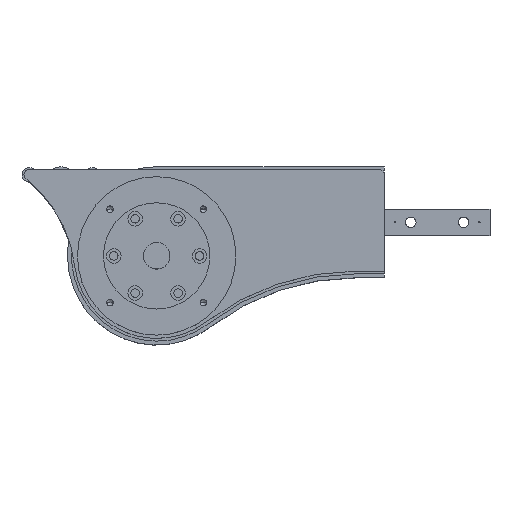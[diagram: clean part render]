
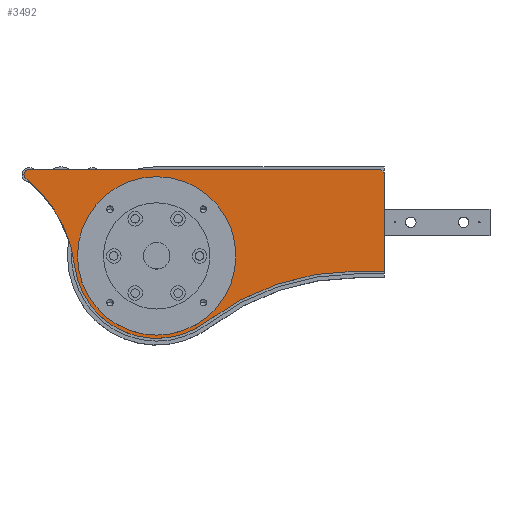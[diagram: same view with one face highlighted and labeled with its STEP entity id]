
A CAD part, top view. The second image highlights one B-rep face of the part: STEP entity #3492.
In plain terms, the highlighted planar face has unit normal (0, 0, 1).
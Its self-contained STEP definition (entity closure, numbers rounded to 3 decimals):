
#76 = VECTOR ( 'NONE', #2647, 1000. ) ;
#249 = VECTOR ( 'NONE', #1659, 1000. ) ;
#303 = ORIENTED_EDGE ( 'NONE', *, *, #4157, .F. ) ;
#388 = VECTOR ( 'NONE', #2232, 1000. ) ;
#492 = EDGE_CURVE ( 'NONE', #3499, #3618, #2774, .T. ) ;
#538 = CARTESIAN_POINT ( 'NONE',  ( 240., 37., 38.3 ) ) ;
#543 = DIRECTION ( 'NONE',  ( 1., 0., 0. ) ) ;
#609 = FACE_OUTER_BOUND ( 'NONE', #1145, .T. ) ;
#754 = EDGE_CURVE ( 'NONE', #2075, #5127, #2888, .T. ) ;
#766 = EDGE_CURVE ( 'NONE', #1439, #2440, #3023, .T. ) ;
#825 = CARTESIAN_POINT ( 'NONE',  ( 218.656, -37., 38.3 ) ) ;
#877 = CARTESIAN_POINT ( 'NONE',  ( -33., 36., 38.3 ) ) ;
#993 = CARTESIAN_POINT ( 'NONE',  ( 127.5, -25.5, 38.3 ) ) ;
#994 = EDGE_LOOP ( 'NONE', ( #4347, #303 ) ) ;
#1008 = DIRECTION ( 'NONE',  ( 0., 0., 1. ) ) ;
#1024 = CIRCLE ( 'NONE', #2170, 4. ) ;
#1145 = EDGE_LOOP ( 'NONE', ( #4206, #4910, #1693, #3592, #5032, #1216, #1167, #3424, #4845 ) ) ;
#1161 = CIRCLE ( 'NONE', #2473, 60. ) ;
#1167 = ORIENTED_EDGE ( 'NONE', *, *, #754, .F. ) ;
#1216 = ORIENTED_EDGE ( 'NONE', *, *, #4986, .F. ) ;
#1232 = EDGE_CURVE ( 'NONE', #3618, #2329, #3755, .T. ) ;
#1253 = VERTEX_POINT ( 'NONE', #993 ) ;
#1301 = CARTESIAN_POINT ( 'NONE',  ( 237., 40., 38.3 ) ) ;
#1359 = DIRECTION ( 'NONE',  ( 1., 0., 0. ) ) ;
#1417 = CARTESIAN_POINT ( 'NONE',  ( 240., -42., 38.3 ) ) ;
#1439 = VERTEX_POINT ( 'NONE', #1487 ) ;
#1487 = CARTESIAN_POINT ( 'NONE',  ( 240., -37., 38.3 ) ) ;
#1495 = FACE_BOUND ( 'NONE', #994, .T. ) ;
#1509 = CIRCLE ( 'NONE', #1543, 187. ) ;
#1543 = AXIS2_PLACEMENT_3D ( 'NONE', #2198, #2971, #4996 ) ;
#1570 = AXIS2_PLACEMENT_3D ( 'NONE', #2592, #4192, #1359 ) ;
#1659 = DIRECTION ( 'NONE',  ( 1., 0., 0. ) ) ;
#1693 = ORIENTED_EDGE ( 'NONE', *, *, #1954, .T. ) ;
#1694 = AXIS2_PLACEMENT_3D ( 'NONE', #4465, #4918, #4479 ) ;
#1696 = CARTESIAN_POINT ( 'NONE',  ( 240., 37., 38.3 ) ) ;
#1854 = EDGE_CURVE ( 'NONE', #3065, #1253, #3380, .T. ) ;
#1954 = EDGE_CURVE ( 'Edge6', #3001, #2439, #1509, .T. ) ;
#1981 = AXIS2_PLACEMENT_3D ( 'NONE', #4904, #2507, #2920 ) ;
#2075 = VERTEX_POINT ( 'NONE', #2784 ) ;
#2123 = CARTESIAN_POINT ( 'NONE',  ( 67.5, -25.5, 38.3 ) ) ;
#2151 = CARTESIAN_POINT ( 'NONE',  ( 67.5, -25.5, 38.3 ) ) ;
#2169 = DIRECTION ( 'NONE',  ( 0., 0., 1. ) ) ;
#2170 = AXIS2_PLACEMENT_3D ( 'NONE', #3056, #3921, #2666 ) ;
#2181 = CARTESIAN_POINT ( 'NONE',  ( 7.5, -25.5, 38.3 ) ) ;
#2198 = CARTESIAN_POINT ( 'NONE',  ( 218.656, -224., 38.3 ) ) ;
#2232 = DIRECTION ( 'NONE',  ( 0., 1., 0. ) ) ;
#2329 = VERTEX_POINT ( 'NONE', #877 ) ;
#2439 = VERTEX_POINT ( 'NONE', #825 ) ;
#2440 = VERTEX_POINT ( 'NONE', #538 ) ;
#2473 = AXIS2_PLACEMENT_3D ( 'NONE', #2992, #4201, #4611 ) ;
#2507 = DIRECTION ( 'NONE',  ( 0., 0., 1. ) ) ;
#2550 = CARTESIAN_POINT ( 'NONE',  ( 5.468, -33.138, 38.3 ) ) ;
#2574 = LINE ( 'NONE', #1696, #3520 ) ;
#2592 = CARTESIAN_POINT ( 'NONE',  ( -29., 36., 38.3 ) ) ;
#2647 = DIRECTION ( 'NONE',  ( 1., 0., 0. ) ) ;
#2666 = DIRECTION ( 'NONE',  ( 1., 0., 0. ) ) ;
#2705 = AXIS2_PLACEMENT_3D ( 'NONE', #2151, #1008, #4188 ) ;
#2774 = CIRCLE ( 'NONE', #1694, 100. ) ;
#2784 = CARTESIAN_POINT ( 'NONE',  ( -29., 40., 38.3 ) ) ;
#2801 = AXIS2_PLACEMENT_3D ( 'NONE', #2123, #2169, #543 ) ;
#2883 = EDGE_CURVE ( 'Edge30', #2439, #1439, #4684, .T. ) ;
#2888 = LINE ( 'NONE', #4211, #76 ) ;
#2920 = DIRECTION ( 'NONE',  ( 1., 0., 0. ) ) ;
#2971 = DIRECTION ( 'NONE',  ( 0., 0., -1. ) ) ;
#2992 = CARTESIAN_POINT ( 'NONE',  ( 67.5, -25.5, 38.3 ) ) ;
#3001 = VERTEX_POINT ( 'NONE', #3778 ) ;
#3023 = LINE ( 'NONE', #1417, #388 ) ;
#3056 = CARTESIAN_POINT ( 'NONE',  ( -29., 36., 38.3 ) ) ;
#3065 = VERTEX_POINT ( 'NONE', #2181 ) ;
#3242 = DIRECTION ( 'NONE',  ( 0.707, -0.707, 0. ) ) ;
#3380 = CIRCLE ( 'NONE', #1981, 60. ) ;
#3424 = ORIENTED_EDGE ( 'NONE', *, *, #4674, .F. ) ;
#3492 = ADVANCED_FACE ( 'NONE', ( #609, #1495 ), #3761, .T. ) ;
#3499 = VERTEX_POINT ( 'NONE', #2550 ) ;
#3520 = VECTOR ( 'NONE', #3242, 1000. ) ;
#3540 = EDGE_CURVE ( 'NONE', #3499, #3001, #3795, .T. ) ;
#3592 = ORIENTED_EDGE ( 'NONE', *, *, #2883, .T. ) ;
#3618 = VERTEX_POINT ( 'NONE', #4288 ) ;
#3755 = CIRCLE ( 'NONE', #1570, 4. ) ;
#3761 = PLANE ( 'NONE',  #2801 ) ;
#3778 = CARTESIAN_POINT ( 'NONE',  ( 105.365, -75.224, 38.3 ) ) ;
#3795 = CIRCLE ( 'NONE', #2705, 62.5 ) ;
#3921 = DIRECTION ( 'NONE',  ( 0., 0., -1. ) ) ;
#4054 = CARTESIAN_POINT ( 'NONE',  ( 218.656, -37., 38.3 ) ) ;
#4157 = EDGE_CURVE ( 'NONE', #1253, #3065, #1161, .T. ) ;
#4188 = DIRECTION ( 'NONE',  ( 1., 0., 0. ) ) ;
#4192 = DIRECTION ( 'NONE',  ( 0., 0., -1. ) ) ;
#4201 = DIRECTION ( 'NONE',  ( 0., 0., 1. ) ) ;
#4206 = ORIENTED_EDGE ( 'NONE', *, *, #492, .F. ) ;
#4211 = CARTESIAN_POINT ( 'NONE',  ( 237., 40., 38.3 ) ) ;
#4288 = CARTESIAN_POINT ( 'NONE',  ( -31.492, 32.871, 38.3 ) ) ;
#4347 = ORIENTED_EDGE ( 'NONE', *, *, #1854, .F. ) ;
#4465 = CARTESIAN_POINT ( 'NONE',  ( -93.782, -45.359, 38.3 ) ) ;
#4479 = DIRECTION ( 'NONE',  ( 1., 0., 0. ) ) ;
#4611 = DIRECTION ( 'NONE',  ( 1., 0., 0. ) ) ;
#4674 = EDGE_CURVE ( 'NONE', #2329, #2075, #1024, .T. ) ;
#4684 = LINE ( 'NONE', #4054, #249 ) ;
#4845 = ORIENTED_EDGE ( 'NONE', *, *, #1232, .F. ) ;
#4904 = CARTESIAN_POINT ( 'NONE',  ( 67.5, -25.5, 38.3 ) ) ;
#4910 = ORIENTED_EDGE ( 'NONE', *, *, #3540, .T. ) ;
#4918 = DIRECTION ( 'NONE',  ( 0., 0., 1. ) ) ;
#4986 = EDGE_CURVE ( 'NONE', #5127, #2440, #2574, .T. ) ;
#4996 = DIRECTION ( 'NONE',  ( -1., 0., 0. ) ) ;
#5032 = ORIENTED_EDGE ( 'NONE', *, *, #766, .T. ) ;
#5127 = VERTEX_POINT ( 'NONE', #1301 ) ;
